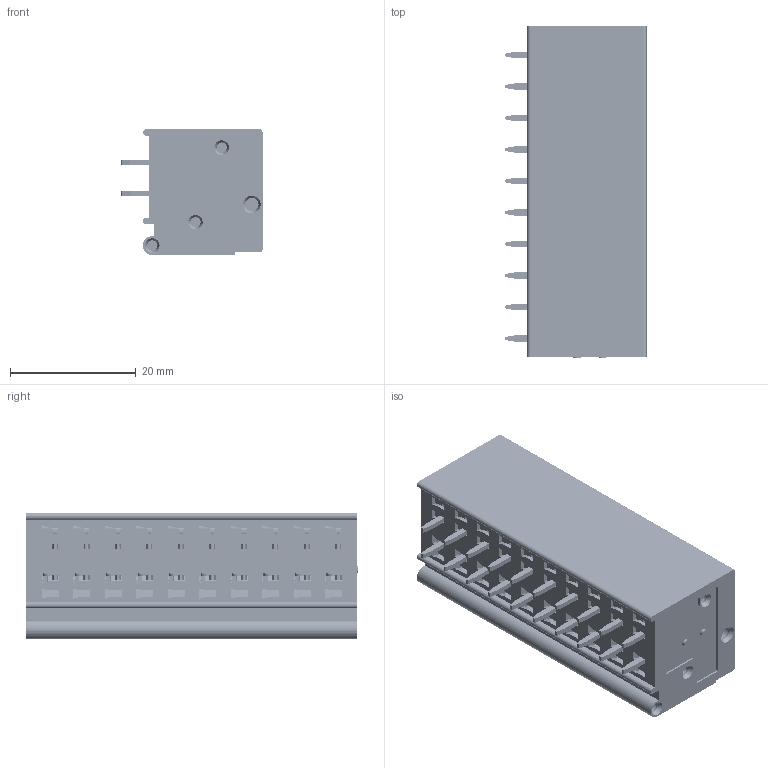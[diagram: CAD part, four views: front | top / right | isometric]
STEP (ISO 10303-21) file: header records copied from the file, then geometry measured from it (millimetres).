
FILE_DESCRIPTION (( 'STEP AP214' ), '1' );
FILE_NAME ('8931-F190200GAA10RB.STEP', '2018-04-23T09:52:18', ( 'ADMIN' ), ( '' ), 'SwSTEP 2.0', 'SolidWorks 2011', '' );
FILE_SCHEMA (( 'AUTOMOTIVE_DESIGN' ));
Products named in the file (1): 8931-F190200GAA10RB
Bounding box: 22.4 x 52.7 x 20 mm (x, y, z)
Volume: 11238.1 mm3; surface area: 25384.3 mm2
Topology: 2 solids, 84 shells, 4791 faces, 14079 edges, 9234 vertices
Faces by surface type: plane 2423, cylinder 1622, cone 387, bspline 359
Entity records: 205745 total; most frequent: CARTESIAN_POINT 85938, ORIENTED_EDGE 28158, DIRECTION 20526, EDGE_CURVE 14079, VERTEX_POINT 9234, LINE 7986, VECTOR 7986, AXIS2_PLACEMENT_3D 6270
